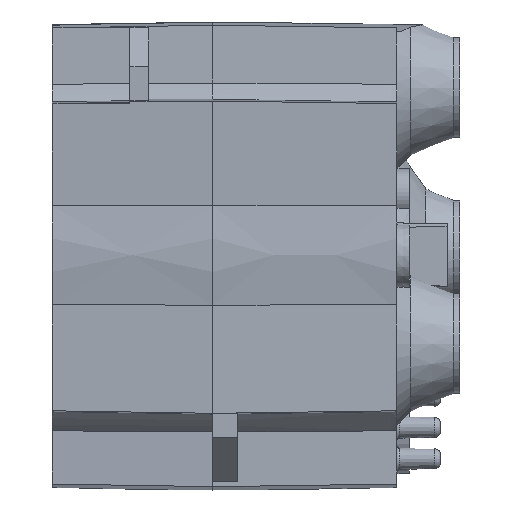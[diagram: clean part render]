
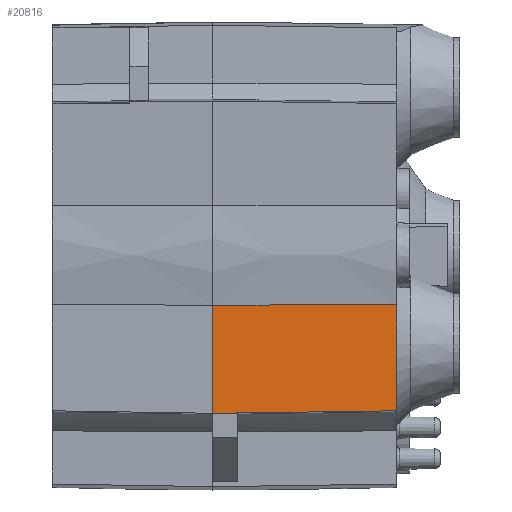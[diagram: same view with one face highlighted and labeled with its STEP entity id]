
A CAD part, left-side view. The second image highlights one B-rep face of the part: STEP entity #20816.
In plain terms, the highlighted planar face has unit normal (-1, -0.014, 0.013).
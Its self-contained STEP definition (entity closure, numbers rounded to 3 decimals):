
#1547=(
BOUNDED_CURVE()
B_SPLINE_CURVE(2,(#27833,#27834,#27835),.UNSPECIFIED.,.F.,.F.)
B_SPLINE_CURVE_WITH_KNOTS((3,3),(240.804,240.895),
 .UNSPECIFIED.)
CURVE()
GEOMETRIC_REPRESENTATION_ITEM()
RATIONAL_B_SPLINE_CURVE((1.,1.,1.))
REPRESENTATION_ITEM('')
);
#1548=(
BOUNDED_CURVE()
B_SPLINE_CURVE(2,(#27837,#27838,#27839),.UNSPECIFIED.,.F.,.F.)
B_SPLINE_CURVE_WITH_KNOTS((3,3),(240.895,243.476),
 .UNSPECIFIED.)
CURVE()
GEOMETRIC_REPRESENTATION_ITEM()
RATIONAL_B_SPLINE_CURVE((1.,1.,1.))
REPRESENTATION_ITEM('')
);
#1840=FACE_OUTER_BOUND('',#2990,.T.);
#2990=EDGE_LOOP('',(#14021,#14022,#14023,#14024,#14025));
#4555=LINE('',#27383,#6379);
#4606=LINE('',#27825,#6430);
#4610=LINE('',#27840,#6434);
#6379=VECTOR('',#23186,10.);
#6430=VECTOR('',#23467,10.);
#6434=VECTOR('',#23473,10.);
#8250=VERTEX_POINT('',#27380);
#8251=VERTEX_POINT('',#27382);
#8345=VERTEX_POINT('',#27824);
#8348=VERTEX_POINT('',#27832);
#8349=VERTEX_POINT('',#27836);
#10466=EDGE_CURVE('',#8251,#8250,#4555,.T.);
#10602=EDGE_CURVE('',#8251,#8345,#4606,.T.);
#10606=EDGE_CURVE('',#8250,#8348,#1547,.T.);
#10607=EDGE_CURVE('',#8348,#8349,#1548,.T.);
#10608=EDGE_CURVE('',#8345,#8349,#4610,.F.);
#14021=ORIENTED_EDGE('',*,*,#10602,.F.);
#14022=ORIENTED_EDGE('',*,*,#10466,.T.);
#14023=ORIENTED_EDGE('',*,*,#10606,.T.);
#14024=ORIENTED_EDGE('',*,*,#10607,.T.);
#14025=ORIENTED_EDGE('',*,*,#10608,.F.);
#20206=PLANE('',#22067);
#20816=ADVANCED_FACE('',(#1840),#20206,.T.);
#22067=AXIS2_PLACEMENT_3D('',#27831,#23471,#23472);
#23186=DIRECTION('',(0.013,0.,1.));
#23467=DIRECTION('',(-0.014,1.,-0.014));
#23471=DIRECTION('center_axis',(-1.,-0.014,
0.013));
#23472=DIRECTION('ref_axis',(0.013,0.,1.));
#23473=DIRECTION('',(-0.013,0.,-1.));
#27380=CARTESIAN_POINT('',(-60.231,0.,-44.54));
#27382=CARTESIAN_POINT('',(-60.457,0.,-61.459));
#27383=CARTESIAN_POINT('',(-60.457,0.,-61.459));
#27824=CARTESIAN_POINT('',(-60.873,29.4,-61.864));
#27825=CARTESIAN_POINT('',(-60.456,-0.062,-61.458));
#27831=CARTESIAN_POINT('Origin',(-60.457,0.,-61.459));
#27832=CARTESIAN_POINT('',(-60.245,1.,-44.541));
#27833=CARTESIAN_POINT('Ctrl Pts',(-60.231,0.,
-44.54));
#27834=CARTESIAN_POINT('Ctrl Pts',(-60.238,0.5,
-44.541));
#27835=CARTESIAN_POINT('Ctrl Pts',(-60.245,1.,-44.541));
#27836=CARTESIAN_POINT('',(-60.642,29.4,-44.581));
#27837=CARTESIAN_POINT('Ctrl Pts',(-60.245,1.,-44.541));
#27838=CARTESIAN_POINT('Ctrl Pts',(-60.443,15.162,-44.561));
#27839=CARTESIAN_POINT('Ctrl Pts',(-60.642,29.4,-44.581));
#27840=CARTESIAN_POINT('',(-60.499,29.4,-33.838));
